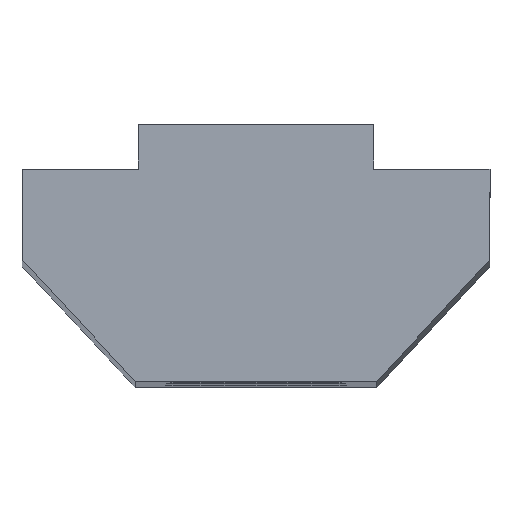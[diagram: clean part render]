
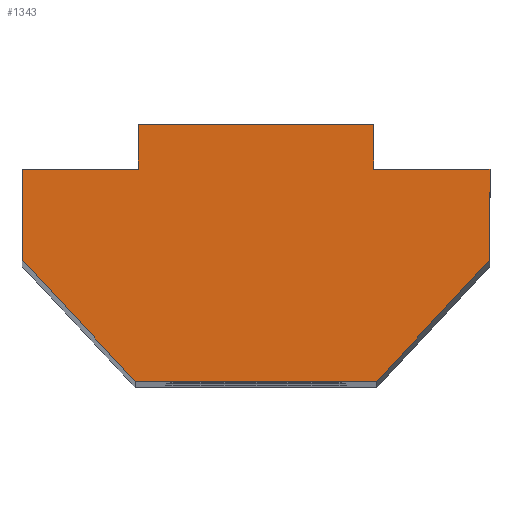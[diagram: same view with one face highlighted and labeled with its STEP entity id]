
A CAD part, top view. The second image highlights one B-rep face of the part: STEP entity #1343.
In plain terms, the highlighted planar face has unit normal (0, 0, 1).
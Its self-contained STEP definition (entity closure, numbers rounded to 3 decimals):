
#129 = EDGE_LOOP ( 'NONE', ( #5679, #5783, #4287, #3935, #379, #6460, #478, #7790, #738, #7093 ) ) ;
#204 = EDGE_CURVE ( 'NONE', #2048, #7210, #3898, .T. ) ;
#379 = ORIENTED_EDGE ( 'NONE', *, *, #204, .T. ) ;
#470 = DIRECTION ( 'NONE',  ( 1., 0., 0. ) ) ;
#478 = ORIENTED_EDGE ( 'NONE', *, *, #1439, .T. ) ;
#719 = CARTESIAN_POINT ( 'NONE',  ( -3.9, -31.067, 60. ) ) ;
#738 = ORIENTED_EDGE ( 'NONE', *, *, #5079, .T. ) ;
#766 = VECTOR ( 'NONE', #5464, 1000. ) ;
#841 = EDGE_CURVE ( 'NONE', #7210, #3269, #4399, .T. ) ;
#946 = EDGE_CURVE ( 'NONE', #2175, #1962, #6916, .T. ) ;
#1110 = CARTESIAN_POINT ( 'NONE',  ( -3.9, -32.544, 60. ) ) ;
#1124 = VERTEX_POINT ( 'NONE', #6478 ) ;
#1305 = CARTESIAN_POINT ( 'NONE',  ( -4., -39.567, 60. ) ) ;
#1343 = ADVANCED_FACE ( 'NONE', ( #5485 ), #6080, .T. ) ;
#1384 = CARTESIAN_POINT ( 'NONE',  ( -7.75, -32.544, 60. ) ) ;
#1439 = EDGE_CURVE ( 'NONE', #3269, #1124, #7708, .T. ) ;
#1698 = VECTOR ( 'NONE', #2741, 1000. ) ;
#1797 = VECTOR ( 'NONE', #4283, 1000. ) ;
#1926 = DIRECTION ( 'NONE',  ( 0.682, -0.731, 0. ) ) ;
#1962 = VERTEX_POINT ( 'NONE', #6304 ) ;
#2048 = VERTEX_POINT ( 'NONE', #2451 ) ;
#2146 = LINE ( 'NONE', #1305, #3094 ) ;
#2175 = VERTEX_POINT ( 'NONE', #1384 ) ;
#2220 = DIRECTION ( 'NONE',  ( 0., 1., 0. ) ) ;
#2332 = VECTOR ( 'NONE', #6128, 1000. ) ;
#2402 = VECTOR ( 'NONE', #6215, 1000. ) ;
#2451 = CARTESIAN_POINT ( 'NONE',  ( 7.75, -35.544, 60. ) ) ;
#2663 = VECTOR ( 'NONE', #3000, 1000. ) ;
#2715 = VERTEX_POINT ( 'NONE', #719 ) ;
#2741 = DIRECTION ( 'NONE',  ( -1., 0., 0. ) ) ;
#2768 = CARTESIAN_POINT ( 'NONE',  ( -7.75, -35.544, 60. ) ) ;
#2981 = CARTESIAN_POINT ( 'NONE',  ( -4., -39.567, 60. ) ) ;
#3000 = DIRECTION ( 'NONE',  ( -1., 0., 0. ) ) ;
#3075 = CARTESIAN_POINT ( 'NONE',  ( 7.75, -32.544, 60. ) ) ;
#3094 = VECTOR ( 'NONE', #470, 1000. ) ;
#3180 = EDGE_CURVE ( 'NONE', #3224, #2175, #4654, .T. ) ;
#3190 = EDGE_CURVE ( 'NONE', #5096, #7370, #2146, .T. ) ;
#3224 = VERTEX_POINT ( 'NONE', #1110 ) ;
#3269 = VERTEX_POINT ( 'NONE', #3874 ) ;
#3593 = CARTESIAN_POINT ( 'NONE',  ( 3.9, -32.544, 60. ) ) ;
#3620 = LINE ( 'NONE', #2768, #7330 ) ;
#3633 = DIRECTION ( 'NONE',  ( 1., 0., 0. ) ) ;
#3826 = CARTESIAN_POINT ( 'NONE',  ( -7.75, -32.544, 60. ) ) ;
#3874 = CARTESIAN_POINT ( 'NONE',  ( 3.9, -32.544, 60. ) ) ;
#3898 = LINE ( 'NONE', #3075, #7640 ) ;
#3935 = ORIENTED_EDGE ( 'NONE', *, *, #4408, .T. ) ;
#4283 = DIRECTION ( 'NONE',  ( -1., 0., 0. ) ) ;
#4287 = ORIENTED_EDGE ( 'NONE', *, *, #3190, .T. ) ;
#4399 = LINE ( 'NONE', #3593, #1698 ) ;
#4408 = EDGE_CURVE ( 'NONE', #7370, #2048, #7800, .T. ) ;
#4444 = DIRECTION ( 'NONE',  ( 0., 0., 1. ) ) ;
#4654 = LINE ( 'NONE', #3826, #2663 ) ;
#4712 = EDGE_CURVE ( 'NONE', #1962, #5096, #3620, .T. ) ;
#4719 = VECTOR ( 'NONE', #5333, 1000. ) ;
#4787 = EDGE_CURVE ( 'NONE', #1124, #2715, #5926, .T. ) ;
#5079 = EDGE_CURVE ( 'NONE', #2715, #3224, #7039, .T. ) ;
#5096 = VERTEX_POINT ( 'NONE', #2981 ) ;
#5121 = CARTESIAN_POINT ( 'NONE',  ( -3.9, -31.067, 60. ) ) ;
#5279 = CARTESIAN_POINT ( 'NONE',  ( -7.75, -39.567, 60. ) ) ;
#5333 = DIRECTION ( 'NONE',  ( 0., -1., 0. ) ) ;
#5454 = CARTESIAN_POINT ( 'NONE',  ( 7.75, -32.544, 60. ) ) ;
#5464 = DIRECTION ( 'NONE',  ( 0., -1., 0. ) ) ;
#5485 = FACE_OUTER_BOUND ( 'NONE', #129, .T. ) ;
#5679 = ORIENTED_EDGE ( 'NONE', *, *, #946, .T. ) ;
#5783 = ORIENTED_EDGE ( 'NONE', *, *, #4712, .T. ) ;
#5926 = LINE ( 'NONE', #5121, #1797 ) ;
#6080 = PLANE ( 'NONE',  #6485 ) ;
#6128 = DIRECTION ( 'NONE',  ( 0., 1., 0. ) ) ;
#6132 = CARTESIAN_POINT ( 'NONE',  ( -7.75, -32.544, 60. ) ) ;
#6215 = DIRECTION ( 'NONE',  ( 0.682, 0.731, 0. ) ) ;
#6253 = CARTESIAN_POINT ( 'NONE',  ( -3.9, -31.067, 60. ) ) ;
#6304 = CARTESIAN_POINT ( 'NONE',  ( -7.75, -35.544, 60. ) ) ;
#6460 = ORIENTED_EDGE ( 'NONE', *, *, #841, .T. ) ;
#6478 = CARTESIAN_POINT ( 'NONE',  ( 3.9, -31.067, 60. ) ) ;
#6485 = AXIS2_PLACEMENT_3D ( 'NONE', #5279, #4444, #3633 ) ;
#6661 = CARTESIAN_POINT ( 'NONE',  ( 4., -39.567, 60. ) ) ;
#6912 = CARTESIAN_POINT ( 'NONE',  ( 3.9, -31.067, 60. ) ) ;
#6916 = LINE ( 'NONE', #6132, #4719 ) ;
#6999 = CARTESIAN_POINT ( 'NONE',  ( 7.75, -35.544, 60. ) ) ;
#7039 = LINE ( 'NONE', #6253, #766 ) ;
#7093 = ORIENTED_EDGE ( 'NONE', *, *, #3180, .T. ) ;
#7210 = VERTEX_POINT ( 'NONE', #5454 ) ;
#7330 = VECTOR ( 'NONE', #1926, 1000. ) ;
#7370 = VERTEX_POINT ( 'NONE', #6661 ) ;
#7640 = VECTOR ( 'NONE', #2220, 1000. ) ;
#7708 = LINE ( 'NONE', #6912, #2332 ) ;
#7790 = ORIENTED_EDGE ( 'NONE', *, *, #4787, .T. ) ;
#7800 = LINE ( 'NONE', #6999, #2402 ) ;
